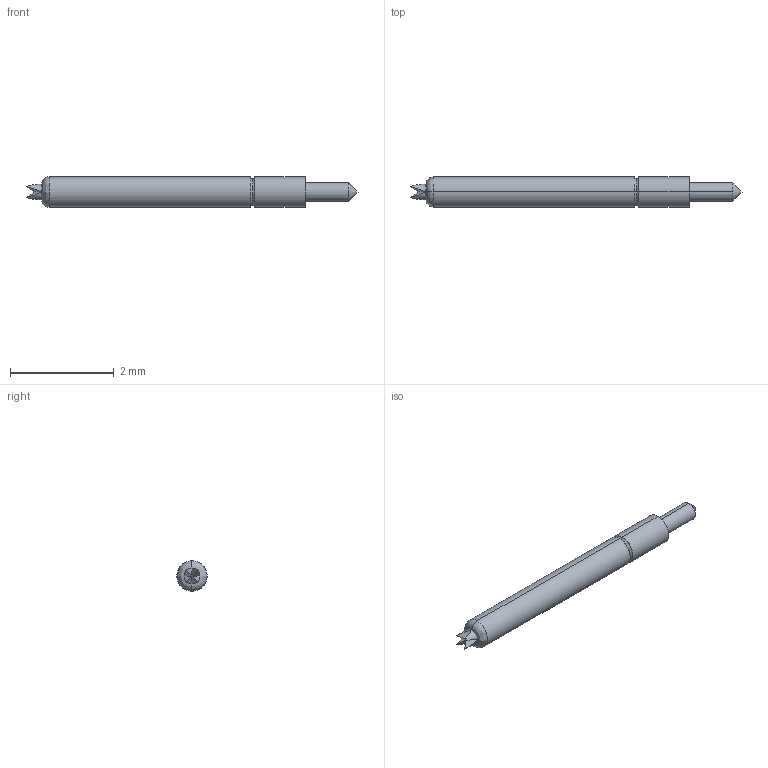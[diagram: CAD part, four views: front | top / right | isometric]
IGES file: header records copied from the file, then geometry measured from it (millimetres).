
Start section: SolidWorks IGES file using analytic representation for surfaces
Global section: file name: Z:\probe solid model mockups\Solidworks models\IGES Files\CSP8-20 IGES files\CSP8-20BL Full.IGS; native system: SolidWorks 2006 by SolidWorks Corporation; preprocessor: SolidWorks 2006 by SolidWorks Corporation; author: tsakatani; date: 080108.152911; units: inch
Bounding box: 6.4 x 0.58 x 0.58 mm (x, y, z)
Surface area: 11.1 mm2 (no closed solid volume)
Topology: 0 solids, 0 shells, 32 faces, 172 edges, 170 vertices
Faces by surface type: revolution 17, bspline 15
